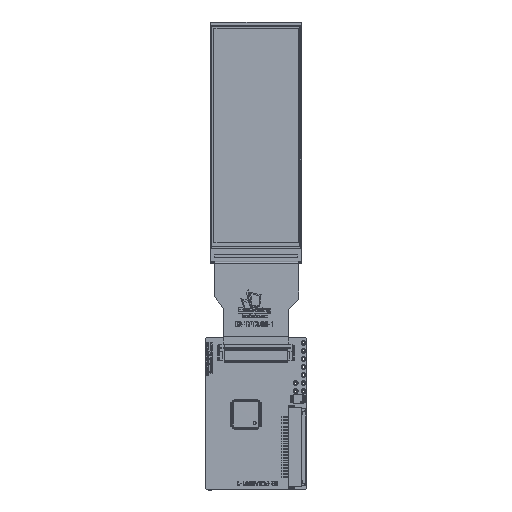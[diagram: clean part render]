
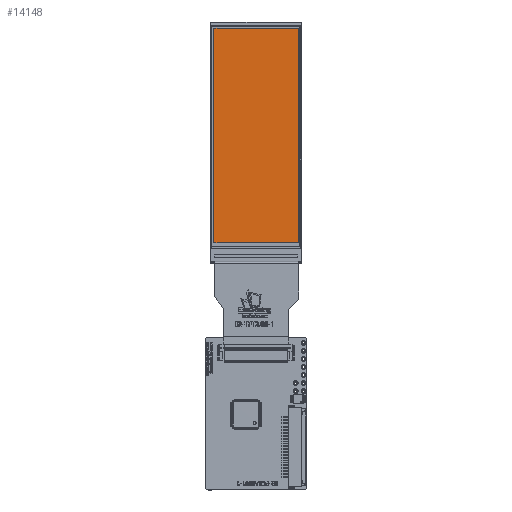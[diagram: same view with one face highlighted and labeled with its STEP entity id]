
A CAD part, top view. The second image highlights one B-rep face of the part: STEP entity #14148.
In plain terms, the highlighted planar face has unit normal (0, 0, 1).
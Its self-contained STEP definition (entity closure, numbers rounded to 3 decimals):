
#2996 = VECTOR ( 'NONE', #38701, 1000. ) ;
#14148 = ADVANCED_FACE ( 'NONE', ( #258703 ), #52765, .T. ) ;
#23419 = LINE ( 'NONE', #236831, #158054 ) ;
#23674 = EDGE_CURVE ( 'NONE', #93303, #199423, #75907, .T. ) ;
#24549 = CARTESIAN_POINT ( 'NONE',  ( -13.255, 36.02, 1.83 ) ) ;
#27980 = DIRECTION ( 'NONE',  ( 1., 0., 0. ) ) ;
#29305 = CARTESIAN_POINT ( 'NONE',  ( 0., 36.02, 1.83 ) ) ;
#29981 = DIRECTION ( 'NONE',  ( 1., 0., 0. ) ) ;
#38701 = DIRECTION ( 'NONE',  ( 0., 1., 0. ) ) ;
#46445 = ORIENTED_EDGE ( 'NONE', *, *, #261454, .F. ) ;
#49294 = EDGE_CURVE ( 'NONE', #199423, #231766, #23419, .T. ) ;
#52765 = PLANE ( 'NONE',  #200342 ) ;
#55449 = DIRECTION ( 'NONE',  ( 0., 0., 1. ) ) ;
#64021 = ORIENTED_EDGE ( 'NONE', *, *, #49294, .F. ) ;
#75907 = LINE ( 'NONE', #29305, #92639 ) ;
#92639 = VECTOR ( 'NONE', #27980, 1000. ) ;
#93303 = VERTEX_POINT ( 'NONE', #24549 ) ;
#110858 = CARTESIAN_POINT ( 'NONE',  ( 0., -31.66, 1.83 ) ) ;
#119073 = VECTOR ( 'NONE', #258839, 1000. ) ;
#126893 = DIRECTION ( 'NONE',  ( 0., -1., 0. ) ) ;
#130710 = ORIENTED_EDGE ( 'NONE', *, *, #233937, .F. ) ;
#143699 = LINE ( 'NONE', #204351, #2996 ) ;
#158054 = VECTOR ( 'NONE', #126893, 1000. ) ;
#163626 = CARTESIAN_POINT ( 'NONE',  ( -13.255, -31.66, 1.83 ) ) ;
#171166 = VERTEX_POINT ( 'NONE', #163626 ) ;
#177110 = CARTESIAN_POINT ( 'NONE',  ( 13.255, -31.66, 1.83 ) ) ;
#195721 = LINE ( 'NONE', #110858, #119073 ) ;
#199423 = VERTEX_POINT ( 'NONE', #246599 ) ;
#200342 = AXIS2_PLACEMENT_3D ( 'NONE', #238476, #55449, #29981 ) ;
#203419 = ORIENTED_EDGE ( 'NONE', *, *, #23674, .F. ) ;
#204351 = CARTESIAN_POINT ( 'NONE',  ( -13.255, 0., 1.83 ) ) ;
#231766 = VERTEX_POINT ( 'NONE', #177110 ) ;
#233937 = EDGE_CURVE ( 'NONE', #171166, #93303, #143699, .T. ) ;
#236831 = CARTESIAN_POINT ( 'NONE',  ( 13.255, 0., 1.83 ) ) ;
#238476 = CARTESIAN_POINT ( 'NONE',  ( 0., 0., 1.83 ) ) ;
#246599 = CARTESIAN_POINT ( 'NONE',  ( 13.255, 36.02, 1.83 ) ) ;
#249730 = EDGE_LOOP ( 'NONE', ( #130710, #46445, #64021, #203419 ) ) ;
#258703 = FACE_OUTER_BOUND ( 'NONE', #249730, .T. ) ;
#258839 = DIRECTION ( 'NONE',  ( -1., 0., 0. ) ) ;
#261454 = EDGE_CURVE ( 'NONE', #231766, #171166, #195721, .T. ) ;
